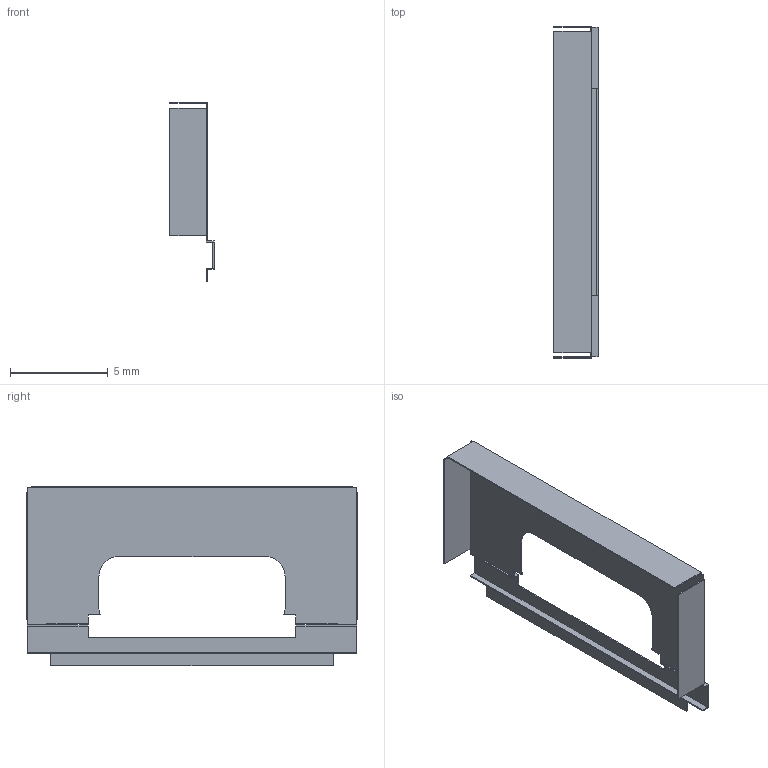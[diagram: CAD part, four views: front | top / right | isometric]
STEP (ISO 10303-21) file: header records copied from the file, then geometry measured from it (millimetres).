
FILE_DESCRIPTION(('Open CASCADE Model'),'2;1');
FILE_NAME('USB_liner_primary','2026-09-21T22:33:44',('Author'),( 'Open CASCADE'),'Open CASCADE STEP processor 7.9','build123d', 'Unknown');
FILE_SCHEMA(('AUTOMOTIVE_DESIGN { 1 0 10303 214 1 1 1 1 }'));
Length unit declared in the file: millimetre
Products named in the file (2): USB_liner_primary
Assembly tree (1 placements, depth 2):
  USB_liner_primary
    USB_liner_primary
Bounding box: 2.26 x 16.93 x 9.16 mm (x, y, z)
Volume: 11.2 mm3; surface area: 366.4 mm2
Topology: 9 solids, 9 shells, 74 faces, 168 edges, 112 vertices
Faces by surface type: plane 70, cylinder 4
Entity records: 2175 total; most frequent: CARTESIAN_POINT 356, ORIENTED_EDGE 336, DIRECTION 328, EDGE_CURVE 168, LINE 160, VECTOR 160, VERTEX_POINT 112, AXIS2_PLACEMENT_3D 84
